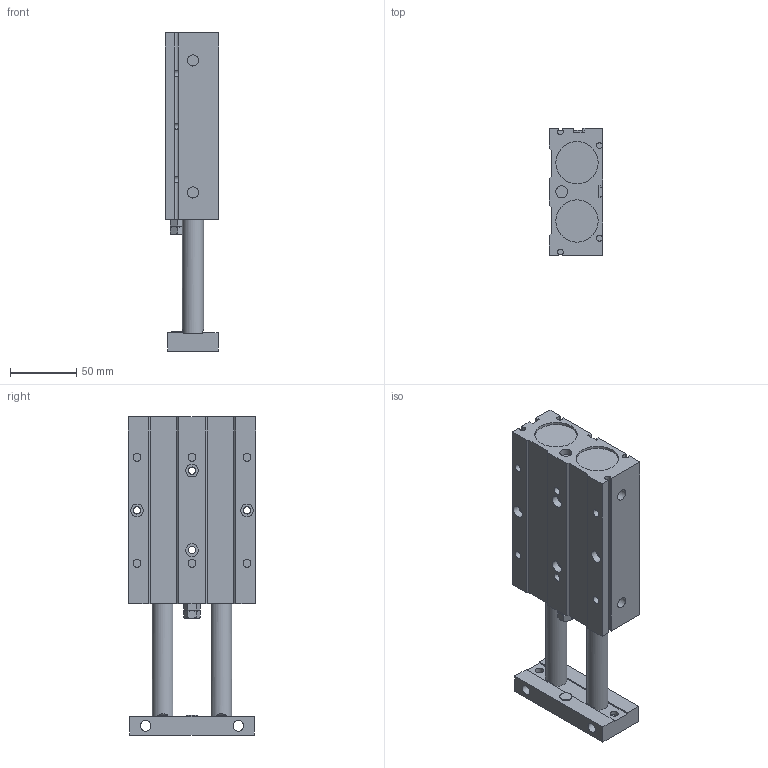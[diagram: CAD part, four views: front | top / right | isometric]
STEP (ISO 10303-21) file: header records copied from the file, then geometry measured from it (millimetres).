
FILE_DESCRIPTION((''),'2;1');
FILE_NAME('I:\3D電子目錄\氣缸\TD\TD32\TD32\TD32x75.stp','2007-08-06T10:18:30',('Administrator'),(''),'Autodesk Inventor 2008','Autodesk Inventor 2008','');
FILE_SCHEMA(('AUTOMOTIVE_DESIGN { 1 0 10303 214 1 1 1 1 }'));
Length unit declared in the file: millimetre
Products named in the file (1): TD32X75
Bounding box: 40.5 x 96 x 240 mm (x, y, z)
Volume: 585265.2 mm3; surface area: 82935.7 mm2
Topology: 1 solids, 3 shells, 186 faces, 458 edges, 304 vertices
Faces by surface type: plane 131, cylinder 42, cone 7, bspline 4, torus 2
Full cylindrical faces by diameter (mm): 5.5 x4, 6 x8, 8 x2, 8.5 x2, 9 x2, 9.5 x8, 12 x2, 13 x2, 14 x2, 16 x2, 32 x4
Entity records: 6066 total; most frequent: CARTESIAN_POINT 1779, DIRECTION 851, ORIENTED_EDGE 802, EDGE_CURVE 401, EDGE_LOOP 297, AXIS2_PLACEMENT_3D 295, VERTEX_POINT 294, VECTOR 261
